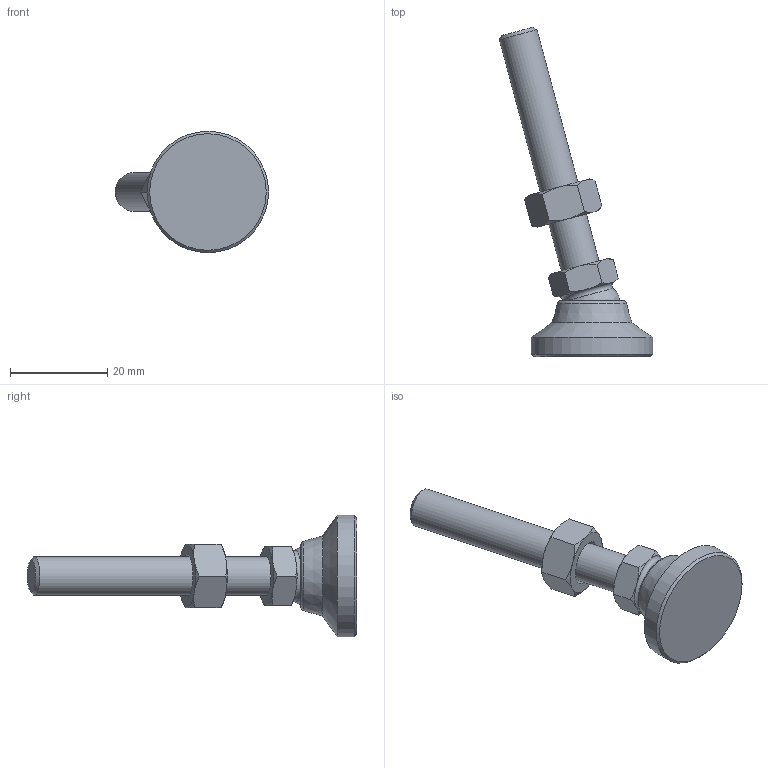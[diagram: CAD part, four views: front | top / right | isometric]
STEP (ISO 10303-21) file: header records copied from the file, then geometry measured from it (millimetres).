
FILE_DESCRIPTION( ( 'STEP AP214' ), ' ' );
FILE_NAME( 'O:/ganter_2015/teil_2/2_5/gn343_2/gn343_2_os/Levelling foot with threaded stud GN 343.2-25-M8-50-OS-(15).stp', '2015-10-26T09:06:33', ( '' ), ( '' ), ' ', 'PARTsolutions', ' ' );
FILE_SCHEMA( ( 'AUTOMOTIVE_DESIGN { 1 0 10303 214 1 1 1 1 }' ) );
Length unit declared in the file: millimetre
Products named in the file (4): Levelling foot with threaded stud GN 343.2-25-M8-50-OS-(15); _Levelling foot with threaded stud GN 343.2-25-M8-50-OS-(15)_foot; _Levelling foot with threaded stud GN 343.2-25-M8-50-OS-(15)_screw; _Stainless Steel-Levelling feet GN 343.2-25-M8-50-OS-(15)_nut
Assembly tree (3 placements, depth 2):
  Levelling foot with threaded stud GN 343.2-25-M8-50-OS-(15)
    _Levelling foot with threaded stud GN 343.2-25-M8-50-OS-(15)_foot
    _Levelling foot with threaded stud GN 343.2-25-M8-50-OS-(15)_screw
    _Stainless Steel-Levelling feet GN 343.2-25-M8-50-OS-(15)_nut
Bounding box: 31.56 x 67.83 x 25 mm (x, y, z)
Volume: 7907.7 mm3; surface area: 4346.1 mm2
Topology: 3 solids, 3 shells, 55 faces, 122 edges, 73 vertices
Faces by surface type: cone 30, plane 18, cylinder 3, torus 2, sphere 1, bspline 1
Full cylindrical faces by diameter (mm): 6.647 x1, 8 x1, 25 x1
Entity records: 2119 total; most frequent: CARTESIAN_POINT 550, ORIENTED_EDGE 210, DIRECTION 206, EDGE_CURVE 105, AXIS2_PLACEMENT_3D 97, VERTEX_POINT 71, EDGE_LOOP 70, FACE_OUTER_BOUND 60
